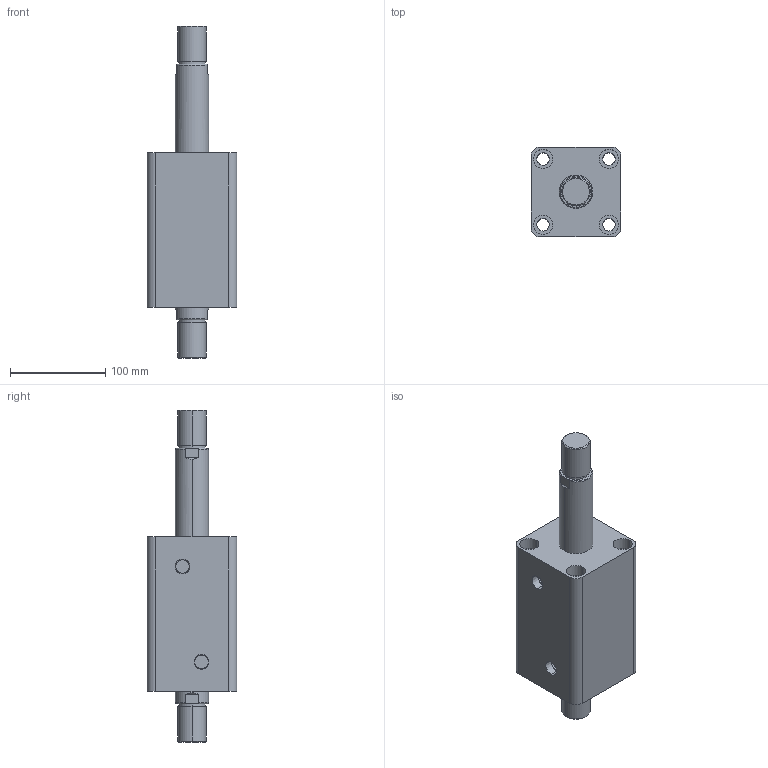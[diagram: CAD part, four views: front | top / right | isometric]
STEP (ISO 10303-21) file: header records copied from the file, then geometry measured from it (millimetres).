
FILE_DESCRIPTION (( 'STEP AP203' ), '1' );
FILE_NAME ('HTB-SW63-80W.STEP', '2019-10-07T10:08:13', ( '微软用户' ), ( '微软中国' ), 'SwSTEP 2.0', 'SolidWorks 2012', '' );
FILE_SCHEMA (( 'CONFIG_CONTROL_DESIGN' ));
Length unit declared in the file: millimetre
Products named in the file (3): HTB-SW63-80W; HTB-SW63-80W活塞杆; HTB-SW63-80掛极
Assembly tree (2 placements, depth 2):
  HTB-SW63-80W
    HTB-SW63-80掛极
    HTB-SW63-80W活塞杆
Bounding box: 94 x 94 x 348 mm (x, y, z)
Volume: 1296397 mm3; surface area: 178416.3 mm2
Topology: 2 solids, 2 shells, 108 faces, 240 edges, 156 vertices
Faces by surface type: cylinder 52, plane 36, torus 12, cone 8
Entity records: 3465 total; most frequent: CARTESIAN_POINT 645, DIRECTION 586, ORIENTED_EDGE 480, AXIS2_PLACEMENT_3D 249, EDGE_CURVE 240, VERTEX_POINT 156, EDGE_LOOP 138, CIRCLE 136
